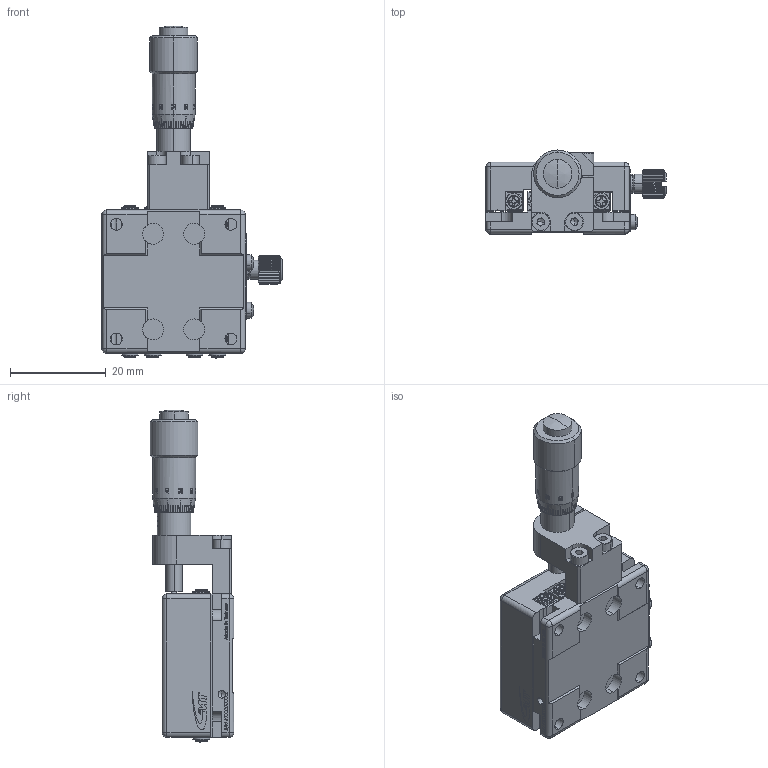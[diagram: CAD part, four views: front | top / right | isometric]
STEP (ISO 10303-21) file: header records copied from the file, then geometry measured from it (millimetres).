
FILE_DESCRIPTION (( 'STEP AP203' ), '1' );
FILE_NAME ('MXL30-AC(«¬¿ý).STEP', '2014-09-09T09:58:03', ( '123' ), ( '' ), 'SwSTEP 2.0', 'SolidWorks 2014', '' );
FILE_SCHEMA (( 'CONFIG_CONTROL_DESIGN' ));
Length unit declared in the file: millimetre
Products named in the file (3): MXL30-AC(型錄); Group1^MXL30-AC(模糊化); Group2^MXL30-AC(模糊化)
Assembly tree (2 placements, depth 2):
  MXL30-AC(型錄)
    Group1^MXL30-AC(模糊化)
    Group2^MXL30-AC(模糊化)
Bounding box: 37.7 x 17.5 x 69.48 mm (x, y, z)
Volume: 14935 mm3; surface area: 11790.8 mm2
Topology: 15 solids, 15 shells, 2624 faces, 7200 edges, 4743 vertices
Faces by surface type: plane 1667, bspline 346, cylinder 343, cone 145, torus 92, sphere 31
Entity records: 96346 total; most frequent: CARTESIAN_POINT 31780, ORIENTED_EDGE 14322, DIRECTION 11850, EDGE_CURVE 7161, VERTEX_POINT 4741, VECTOR 4496, LINE 4496, AXIS2_PLACEMENT_3D 3677
